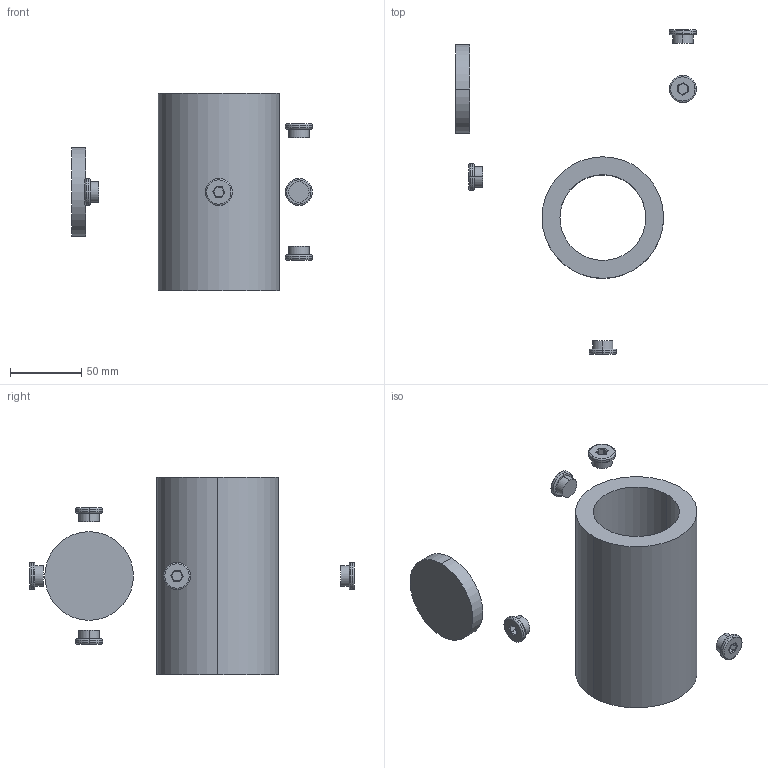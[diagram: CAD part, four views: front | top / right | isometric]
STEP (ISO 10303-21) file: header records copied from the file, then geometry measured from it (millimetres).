
FILE_DESCRIPTION (( 'STEP AP203' ), '1' );
FILE_NAME ('NMRV90-80B14.STEP', '2018-12-10T05:43:03', ( '微软中国' ), ( '微软中国' ), 'SwSTEP 2.0', 'SolidWorks 2016', '' );
FILE_SCHEMA (( 'CONFIG_CONTROL_DESIGN' ));
Length unit declared in the file: millimetre
Products named in the file (1): NMRV90-80B14
Bounding box: 168.47 x 227.28 x 138 mm (x, y, z)
Volume: 431936.1 mm3; surface area: 82051.6 mm2
Topology: 7 solids, 7 shells, 195 faces, 433 edges, 232 vertices
Faces by surface type: cylinder 91, plane 54, bspline 30, torus 20
Entity records: 307068 total; most frequent: CARTESIAN_POINT 186793, ORIENTED_EDGE 29670, DIRECTION 19117, EDGE_CURVE 14835, VERTEX_POINT 8774, AXIS2_PLACEMENT_3D 7666, EDGE_LOOP 6327, ADVANCED_FACE 6194
